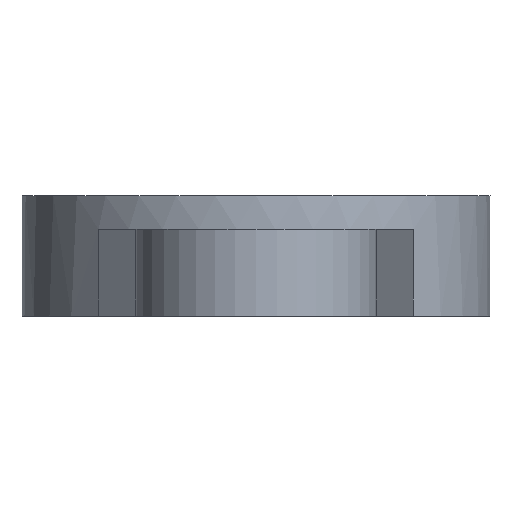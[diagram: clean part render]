
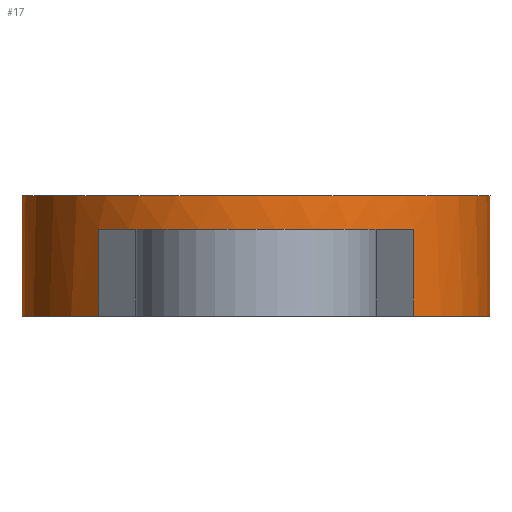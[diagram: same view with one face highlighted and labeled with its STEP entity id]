
A CAD part, left-side view. The second image highlights one B-rep face of the part: STEP entity #17.
In plain terms, the highlighted cylindrical face has radius 7 mm (diameter 14 mm), a full revolution.
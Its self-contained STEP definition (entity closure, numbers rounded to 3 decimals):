
#17 = ADVANCED_FACE('',(#18),#79,.T.);
#18 = FACE_BOUND('',#19,.T.);
#19 = EDGE_LOOP('',(#20,#30,#37,#38,#47,#55,#64,#72));
#20 = ORIENTED_EDGE('',*,*,#21,.T.);
#21 = EDGE_CURVE('',#22,#24,#26,.T.);
#22 = VERTEX_POINT('',#23);
#23 = CARTESIAN_POINT('',(7.,0.,5.));
#24 = VERTEX_POINT('',#25);
#25 = CARTESIAN_POINT('',(7.,0.,8.6));
#26 = LINE('',#27,#28);
#27 = CARTESIAN_POINT('',(7.,0.,5.));
#28 = VECTOR('',#29,1.);
#29 = DIRECTION('',(0.,0.,1.));
#30 = ORIENTED_EDGE('',*,*,#31,.F.);
#31 = EDGE_CURVE('',#24,#24,#32,.T.);
#32 = CIRCLE('',#33,7.);
#33 = AXIS2_PLACEMENT_3D('',#34,#35,#36);
#34 = CARTESIAN_POINT('',(0.,0.,8.6));
#35 = DIRECTION('',(0.,0.,1.));
#36 = DIRECTION('',(1.,0.,-0.));
#37 = ORIENTED_EDGE('',*,*,#21,.F.);
#38 = ORIENTED_EDGE('',*,*,#39,.T.);
#39 = EDGE_CURVE('',#22,#40,#42,.T.);
#40 = VERTEX_POINT('',#41);
#41 = CARTESIAN_POINT('',(-5.178,4.71,5.));
#42 = CIRCLE('',#43,7.);
#43 = AXIS2_PLACEMENT_3D('',#44,#45,#46);
#44 = CARTESIAN_POINT('',(0.,0.,5.));
#45 = DIRECTION('',(0.,0.,1.));
#46 = DIRECTION('',(1.,0.,-0.));
#47 = ORIENTED_EDGE('',*,*,#48,.T.);
#48 = EDGE_CURVE('',#40,#49,#51,.T.);
#49 = VERTEX_POINT('',#50);
#50 = CARTESIAN_POINT('',(-5.178,4.71,7.6));
#51 = LINE('',#52,#53);
#52 = CARTESIAN_POINT('',(-5.178,4.71,5.));
#53 = VECTOR('',#54,1.);
#54 = DIRECTION('',(0.,0.,1.));
#55 = ORIENTED_EDGE('',*,*,#56,.T.);
#56 = EDGE_CURVE('',#49,#57,#59,.T.);
#57 = VERTEX_POINT('',#58);
#58 = CARTESIAN_POINT('',(-5.178,-4.71,7.6));
#59 = CIRCLE('',#60,7.);
#60 = AXIS2_PLACEMENT_3D('',#61,#62,#63);
#61 = CARTESIAN_POINT('',(0.,0.,7.6));
#62 = DIRECTION('',(0.,0.,1.));
#63 = DIRECTION('',(1.,0.,-0.));
#64 = ORIENTED_EDGE('',*,*,#65,.F.);
#65 = EDGE_CURVE('',#66,#57,#68,.T.);
#66 = VERTEX_POINT('',#67);
#67 = CARTESIAN_POINT('',(-5.178,-4.71,5.));
#68 = LINE('',#69,#70);
#69 = CARTESIAN_POINT('',(-5.178,-4.71,5.));
#70 = VECTOR('',#71,1.);
#71 = DIRECTION('',(0.,0.,1.));
#72 = ORIENTED_EDGE('',*,*,#73,.T.);
#73 = EDGE_CURVE('',#66,#22,#74,.T.);
#74 = CIRCLE('',#75,7.);
#75 = AXIS2_PLACEMENT_3D('',#76,#77,#78);
#76 = CARTESIAN_POINT('',(0.,0.,5.));
#77 = DIRECTION('',(0.,0.,1.));
#78 = DIRECTION('',(1.,0.,-0.));
#79 = CYLINDRICAL_SURFACE('',#80,7.);
#80 = AXIS2_PLACEMENT_3D('',#81,#82,#83);
#81 = CARTESIAN_POINT('',(0.,0.,5.));
#82 = DIRECTION('',(0.,0.,1.));
#83 = DIRECTION('',(1.,0.,-0.));
